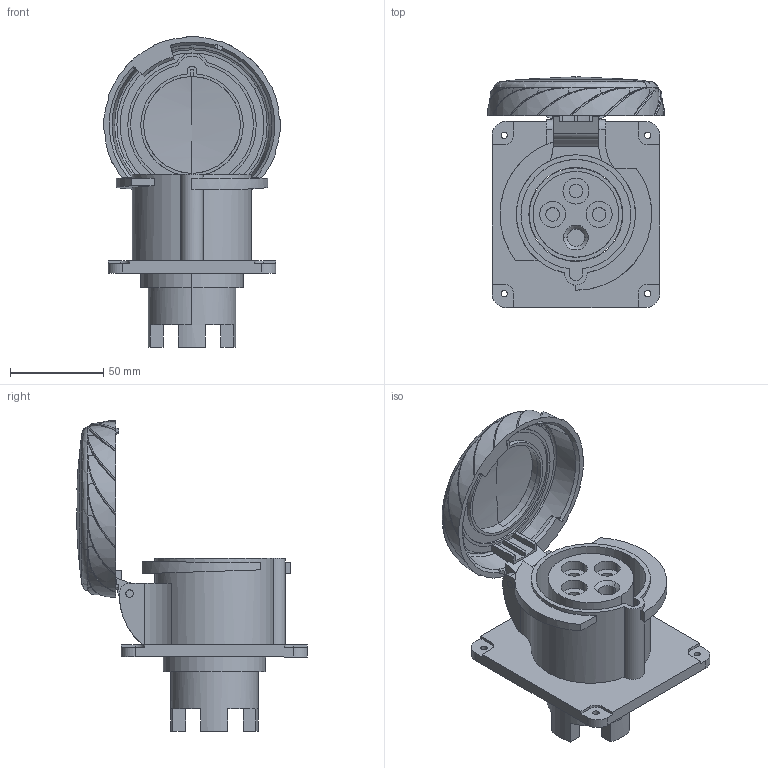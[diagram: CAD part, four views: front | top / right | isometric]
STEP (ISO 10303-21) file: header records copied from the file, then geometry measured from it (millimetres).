
FILE_DESCRIPTION((''),'2;1');
FILE_NAME('PKY32G734_3D-SIMPLIFIED_ASM','2023-02-15T13:07:42',('melanie.cordero'),(''),'CREO PARAMETRIC BY PTC INC, 2018260','CREO PARAMETRIC BY PTC INC, 2018260','');
FILE_SCHEMA(('CONFIG_CONTROL_DESIGN'));
Length unit declared in the file: millimetre
Products named in the file (6): PRT1; PRT2; PRT3; PRT4; PRT5; PKY32G734_3D-SIMPLIFIED_ASM
Assembly tree (5 placements, depth 2):
  PKY32G734_3D-SIMPLIFIED_ASM
    PRT1
    PRT2
    PRT3
    PRT4
    PRT5
Bounding box: 94.9 x 123.99 x 166.97 mm (x, y, z)
Volume: 261830.1 mm3; surface area: 98001.3 mm2
Topology: 5 solids, 5 shells, 348 faces, 968 edges, 640 vertices
Faces by surface type: plane 124, cylinder 118, bspline 74, torus 14, cone 10, sphere 8
Entity records: 16675 total; most frequent: CARTESIAN_POINT 7964, ORIENTED_EDGE 1920, DIRECTION 1678, EDGE_CURVE 960, AXIS2_PLACEMENT_3D 660, VERTEX_POINT 640, EDGE_LOOP 384, CIRCLE 375
